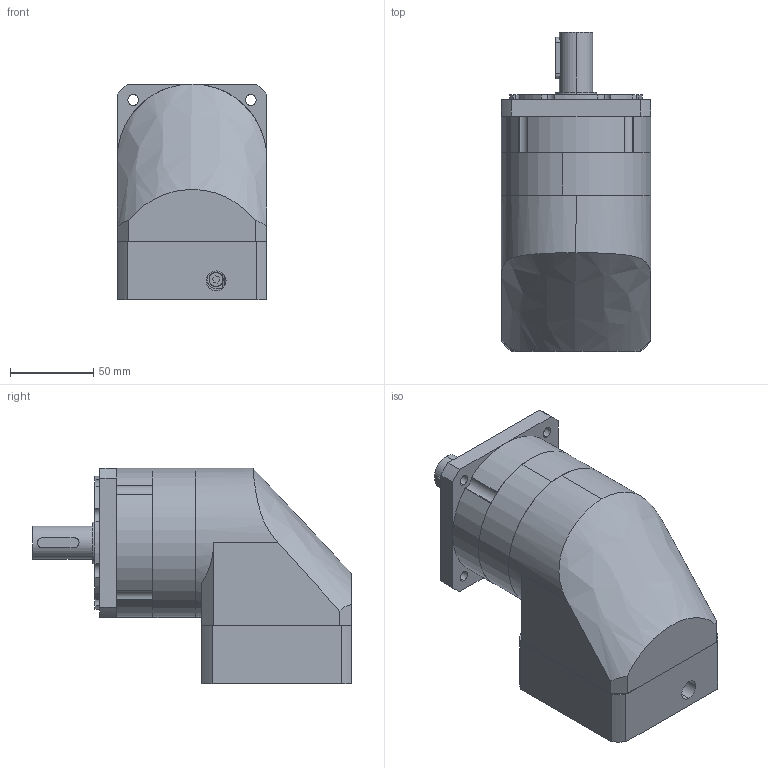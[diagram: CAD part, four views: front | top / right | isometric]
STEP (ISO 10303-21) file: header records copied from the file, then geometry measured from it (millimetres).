
FILE_DESCRIPTION (( 'STEP AP203' ), '1' );
FILE_NAME ('PVFA090-L1-19-80-100.STEP', '2025-04-30T08:38:32', ( 'Windows User' ), ( 'P R C' ), 'SwSTEP 2.0', 'SolidWorks 2016', '' );
FILE_SCHEMA (( 'CONFIG_CONTROL_DESIGN' ));
Length unit declared in the file: millimetre
Products named in the file (9): PVFA90-蟀諉啣-80-M6-100; PVFA90-薊粣ん; M5 x 20; 粣創-3206A 30x62x23.8_2; 邧埴瑩 6x6x25; PVFA090-L1-19-80-100; PVFA90 眊极_揤翉; PVFA90 κｳﾝﾈｦ-ﾓﾅｻｯ_ﾒｻｼｶﾄﾚｳﾝﾈｦ; PVFA90 奻屳唳_梓袧
Assembly tree (8 placements, depth 2):
  PVFA090-L1-19-80-100
    PVFA90 眊极_揤翉
    PVFA90 κｳﾝﾈｦ-ﾓﾅｻｯ_ﾒｻｼｶﾄﾚｳﾝﾈｦ
    PVFA90 奻屳唳_梓袧
    PVFA90-蟀諉啣-80-M6-100
    PVFA90-薊粣ん
    M5 x 20
    粣創-3206A 30x62x23.8_2
    邧埴瑩 6x6x25
Bounding box: 90 x 192 x 130 mm (x, y, z)
Volume: 1109911.2 mm3; surface area: 187799.8 mm2
Topology: 8 solids, 8 shells, 600 faces, 1698 edges, 1107 vertices
Faces by surface type: cylinder 235, plane 196, bspline 139, cone 30
Entity records: 24407 total; most frequent: CARTESIAN_POINT 8458, ORIENTED_EDGE 3356, DIRECTION 2966, EDGE_CURVE 1678, AXIS2_PLACEMENT_3D 1181, VERTEX_POINT 1107, CIRCLE 709, EDGE_LOOP 689
